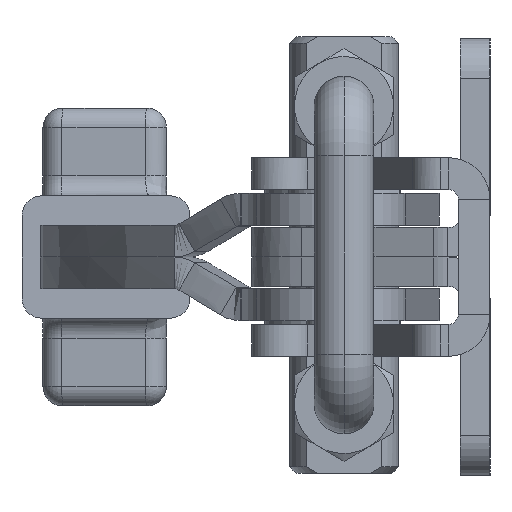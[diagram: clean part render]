
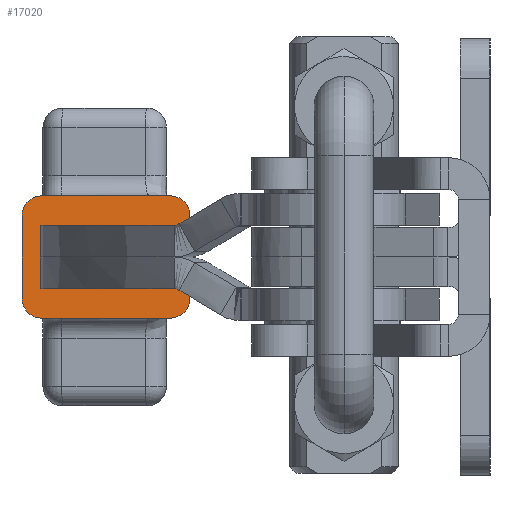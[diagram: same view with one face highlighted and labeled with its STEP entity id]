
A CAD part, left-side view. The second image highlights one B-rep face of the part: STEP entity #17020.
In plain terms, the highlighted planar face has unit normal (-0.999, -0.055, 0) as drawn and (0, -0.995, -0.102) by its records, which use the part's own axes.
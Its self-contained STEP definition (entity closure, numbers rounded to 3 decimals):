
#16950=AXIS2_PLACEMENT_3D('Circle Axis2P3D',#16948,#16949,$) ;
#16963=AXIS2_PLACEMENT_3D('Plane Axis2P3D',#16960,#16961,#16962) ;
#16967=AXIS2_PLACEMENT_3D('Circle Axis2P3D',#16965,#16966,$) ;
#16542=CARTESIAN_POINT('Vertex',(6.16,62.252,19.171)) ;
#16558=CARTESIAN_POINT('Vertex',(6.16,60.934,32.034)) ;
#16561=CARTESIAN_POINT('Line Origine',(6.16,61.593,25.603)) ;
#16918=CARTESIAN_POINT('Vertex',(4.16,60.73,34.034)) ;
#16922=CARTESIAN_POINT('Control Point',(6.16,60.934,32.034)) ;
#16923=CARTESIAN_POINT('Control Point',(6.16,60.87,32.661)) ;
#16924=CARTESIAN_POINT('Control Point',(5.915,60.806,33.288)) ;
#16925=CARTESIAN_POINT('Control Point',(5.421,60.755,33.787)) ;
#16926=CARTESIAN_POINT('Control Point',(4.79,60.73,34.034)) ;
#16927=CARTESIAN_POINT('Control Point',(4.16,60.73,34.034)) ;
#16945=CARTESIAN_POINT('Vertex',(4.16,62.455,17.182)) ;
#16948=CARTESIAN_POINT('Axis2P3D Location',(4.16,62.252,19.171)) ;
#16960=CARTESIAN_POINT('Axis2P3D Location',(0.,62.455,17.182)) ;
#16965=CARTESIAN_POINT('Axis2P3D Location',(-4.16,62.252,19.171)) ;
#16969=CARTESIAN_POINT('Vertex',(-4.16,62.455,17.182)) ;
#16971=CARTESIAN_POINT('Vertex',(-6.16,62.252,19.171)) ;
#16974=CARTESIAN_POINT('Line Origine',(0.,62.455,17.182)) ;
#16979=CARTESIAN_POINT('Line Origine',(0.,60.73,34.034)) ;
#16983=CARTESIAN_POINT('Vertex',(-4.16,60.73,34.034)) ;
#16987=CARTESIAN_POINT('Control Point',(-6.16,60.934,32.034)) ;
#16988=CARTESIAN_POINT('Control Point',(-6.16,60.915,32.223)) ;
#16989=CARTESIAN_POINT('Control Point',(-6.137,60.896,32.413)) ;
#16990=CARTESIAN_POINT('Control Point',(-6.093,60.877,32.598)) ;
#16991=CARTESIAN_POINT('Control Point',(-5.96,60.84,32.956)) ;
#16992=CARTESIAN_POINT('Control Point',(-5.747,60.807,33.273)) ;
#16993=CARTESIAN_POINT('Control Point',(-5.623,60.793,33.418)) ;
#16994=CARTESIAN_POINT('Control Point',(-5.341,60.766,33.676)) ;
#16995=CARTESIAN_POINT('Control Point',(-5.007,60.747,33.861)) ;
#16996=CARTESIAN_POINT('Control Point',(-4.83,60.74,33.933)) ;
#16997=CARTESIAN_POINT('Control Point',(-4.588,60.733,33.999)) ;
#16998=CARTESIAN_POINT('Control Point',(-4.339,60.73,34.027)) ;
#16999=CARTESIAN_POINT('Control Point',(-4.28,60.73,34.032)) ;
#17000=CARTESIAN_POINT('Control Point',(-4.22,60.73,34.034)) ;
#17001=CARTESIAN_POINT('Control Point',(-4.16,60.73,34.034)) ;
#17002=CARTESIAN_POINT('Vertex',(-6.16,60.934,32.034)) ;
#17005=CARTESIAN_POINT('Line Origine',(-6.16,61.593,25.603)) ;
#16562=DIRECTION('Vector Direction',(0.,0.102,-0.995)) ;
#16949=DIRECTION('Axis2P3D Direction',(0.,0.995,0.102)) ;
#16961=DIRECTION('Axis2P3D Direction',(-0.,0.995,0.102)) ;
#16962=DIRECTION('Axis2P3D XDirection',(0.,-0.102,0.995)) ;
#16966=DIRECTION('Axis2P3D Direction',(-0.,0.995,0.102)) ;
#16975=DIRECTION('Vector Direction',(1.,0.,0.)) ;
#16980=DIRECTION('Vector Direction',(1.,0.,0.)) ;
#17006=DIRECTION('Vector Direction',(0.,0.102,-0.995)) ;
#16563=VECTOR('Line Direction',#16562,1.) ;
#16976=VECTOR('Line Direction',#16975,1.) ;
#16981=VECTOR('Line Direction',#16980,1.) ;
#17007=VECTOR('Line Direction',#17006,1.) ;
#17011=ORIENTED_EDGE('',*,*,#16973,.F.) ;
#17012=ORIENTED_EDGE('',*,*,#16978,.T.) ;
#17013=ORIENTED_EDGE('',*,*,#16952,.F.) ;
#17014=ORIENTED_EDGE('',*,*,#16565,.F.) ;
#17015=ORIENTED_EDGE('',*,*,#16928,.F.) ;
#17016=ORIENTED_EDGE('',*,*,#16985,.F.) ;
#17017=ORIENTED_EDGE('',*,*,#17004,.F.) ;
#17018=ORIENTED_EDGE('',*,*,#17009,.T.) ;
#17020=ADVANCED_FACE('PartBody',(#17019),#16964,.F.) ;
#16921=B_SPLINE_CURVE_WITH_KNOTS('',5,(#16922,#16923,#16924,#16925,#16926,#16927),.UNSPECIFIED.,.F.,.U.,(6,6),(0.,4.454),.UNSPECIFIED.) ;
#16986=B_SPLINE_CURVE_WITH_KNOTS('',5,(#16987,#16988,#16989,#16990,#16991,#16992,#16993,#16994,#16995,#16996,#16997,#16998,#16999,#17000,#17001),.UNSPECIFIED.,.F.,.U.,(6,3,3,3,6),(0.,1.345,2.689,4.031,4.454),.UNSPECIFIED.) ;
#16951=CIRCLE('generated circle',#16950,2.) ;
#16968=CIRCLE('generated circle',#16967,2.) ;
#16565=EDGE_CURVE('',#16559,#16543,#16564,.T.) ;
#16928=EDGE_CURVE('',#16919,#16559,#16921,.F.) ;
#16952=EDGE_CURVE('',#16543,#16946,#16951,.T.) ;
#16973=EDGE_CURVE('',#16970,#16972,#16968,.T.) ;
#16978=EDGE_CURVE('',#16970,#16946,#16977,.T.) ;
#16985=EDGE_CURVE('',#16984,#16919,#16982,.T.) ;
#17004=EDGE_CURVE('',#17003,#16984,#16986,.T.) ;
#17009=EDGE_CURVE('',#17003,#16972,#17008,.T.) ;
#17010=EDGE_LOOP('',(#17011,#17012,#17013,#17014,#17015,#17016,#17017,#17018)) ;
#17019=FACE_OUTER_BOUND('',#17010,.T.) ;
#16564=LINE('Line',#16561,#16563) ;
#16977=LINE('Line',#16974,#16976) ;
#16982=LINE('Line',#16979,#16981) ;
#17008=LINE('Line',#17005,#17007) ;
#16964=PLANE('Plane',#16963) ;
#16543=VERTEX_POINT('',#16542) ;
#16559=VERTEX_POINT('',#16558) ;
#16919=VERTEX_POINT('',#16918) ;
#16946=VERTEX_POINT('',#16945) ;
#16970=VERTEX_POINT('',#16969) ;
#16972=VERTEX_POINT('',#16971) ;
#16984=VERTEX_POINT('',#16983) ;
#17003=VERTEX_POINT('',#17002) ;
